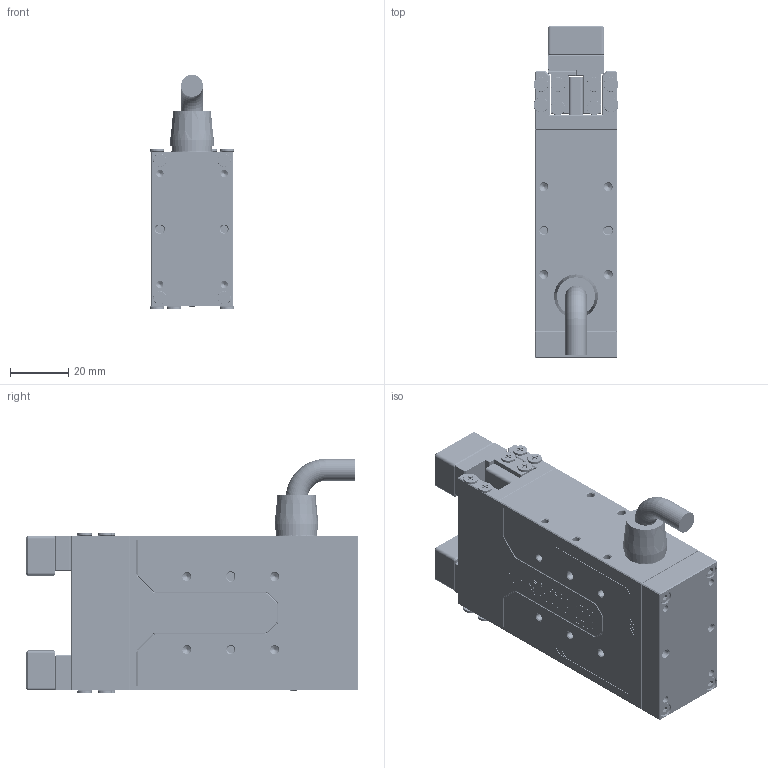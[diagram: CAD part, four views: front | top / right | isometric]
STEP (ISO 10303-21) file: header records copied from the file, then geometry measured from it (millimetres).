
FILE_DESCRIPTION (( 'STEP AP214' ), '1' );
FILE_NAME ('HEPG26-050-0L#-C5024-P40-A##（带手指）.STEP', '2022-04-19T08:48:51', ( 'User' ), ( 'China' ), 'SwSTEP 2.0', 'SolidWorks 2016', '' );
FILE_SCHEMA (( 'AUTOMOTIVE_DESIGN' ));
Length unit declared in the file: millimetre
Products named in the file (2): HEPG26-050-0L#-C5024-P40-A##（带手指）
Bounding box: 29 x 113.5 x 80.15 mm (x, y, z)
Volume: 152853.1 mm3; surface area: 45862.4 mm2
Topology: 45 solids, 45 shells, 2565 faces, 6242 edges, 3891 vertices
Faces by surface type: plane 1127, cylinder 786, cone 270, bspline 234, torus 146, sphere 2
Entity records: 137374 total; most frequent: CARTESIAN_POINT 51674, ORIENTED_EDGE 12316, DIRECTION 10906, EDGE_CURVE 6158, VERTEX_POINT 3891, AXIS2_PLACEMENT_3D 3667, LINE 3572, VECTOR 3572
